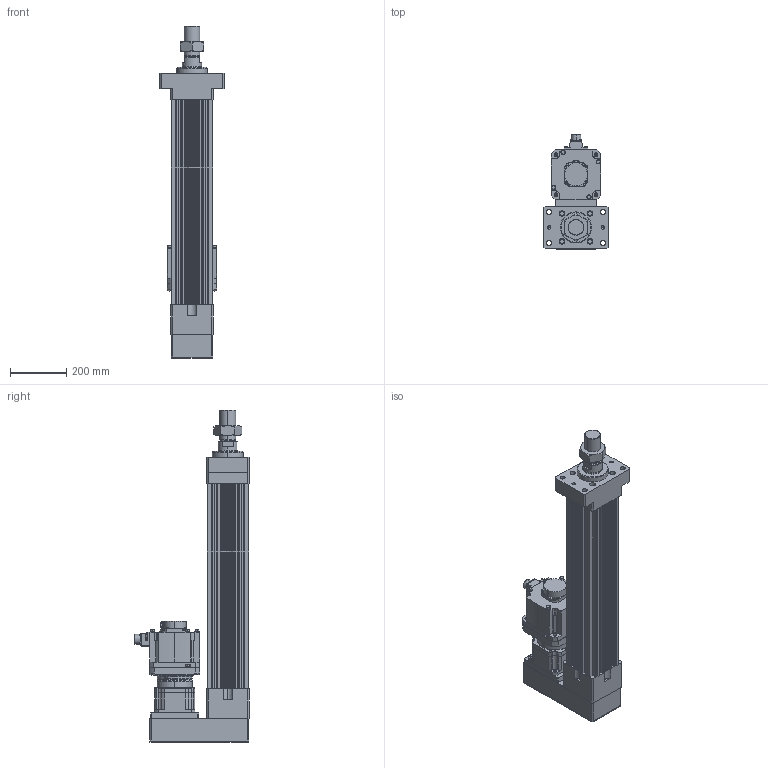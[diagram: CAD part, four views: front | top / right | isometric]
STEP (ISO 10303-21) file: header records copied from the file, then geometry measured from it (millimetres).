
FILE_DESCRIPTION (( 'STEP AP203' ), '1' );
FILE_NAME ('HES150NS(HS)-P450-W035G00-M-FMA.STEP', '2023-01-31T10:30:01', ( 'tms' ), ( '' ), 'SwSTEP 2.0', 'SolidWorks 2013', '' );
FILE_SCHEMA (( 'CONFIG_CONTROL_DESIGN' ));
Length unit declared in the file: millimetre
Products named in the file (9): HES150NS(HS)-P450-W035G00-M-FMA; HG-SR352; P0403500801; P1301500001; HES150-P450-G142-FMA; HES150 ROD M ST450; AB1421; AB142-003[HG-SR352]; M56X2.0P
Assembly tree (8 placements, depth 3):
  HES150NS(HS)-P450-W035G00-M-FMA
    HES150-P450-G142-FMA
    HES150 ROD M ST450
    M56X2.0P
    AB142-003[HG-SR352]
      AB1421
      P1301500001
      P0403500801
    HG-SR352
Bounding box: 230 x 403.85 x 1176 mm (x, y, z)
Volume: 20110248.6 mm3; surface area: 1972205.4 mm2
Topology: 4 solids, 18 shells, 1426 faces, 3722 edges, 2416 vertices
Faces by surface type: cylinder 669, plane 531, cone 144, bspline 76, torus 6
Entity records: 52806 total; most frequent: CARTESIAN_POINT 16363, DIRECTION 7620, ORIENTED_EDGE 7346, EDGE_CURVE 3695, AXIS2_PLACEMENT_3D 2898, VERTEX_POINT 2416, LINE 1824, VECTOR 1824
